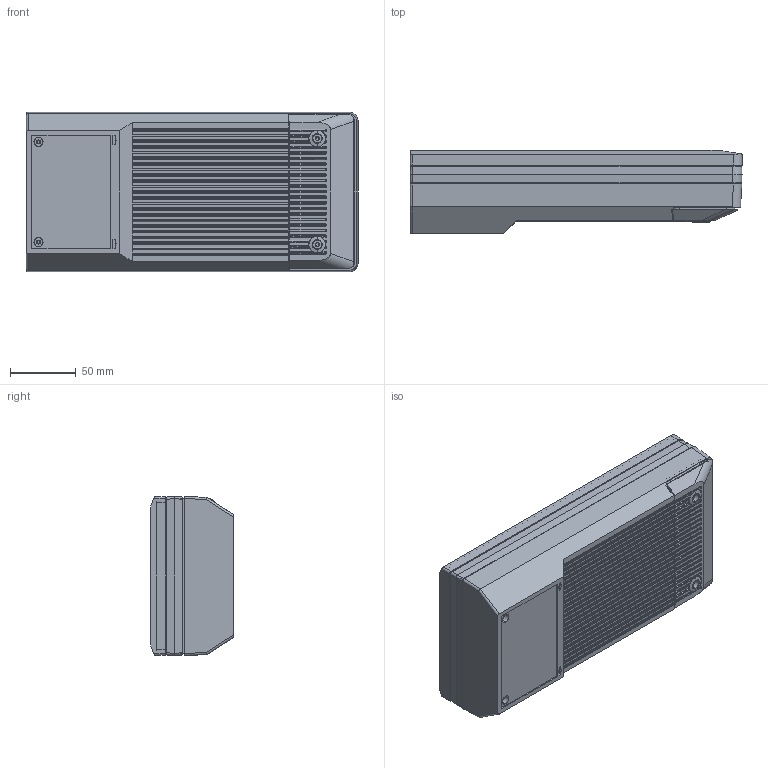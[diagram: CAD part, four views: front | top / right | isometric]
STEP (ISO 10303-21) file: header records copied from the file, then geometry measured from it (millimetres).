
FILE_DESCRIPTION (( 'STEP AP214' ), '1' );
FILE_NAME ('MBL Assembly high.STEP', '2025-01-19T16:08:28', ( '' ), ( '' ), 'SwSTEP 2.0', 'SolidWorks 2016', '' );
FILE_SCHEMA (( 'AUTOMOTIVE_DESIGN' ));
Length unit declared in the file: inch
Products named in the file (9): MBL-DOOR; MBl-top; MBL-bot; MBL Assembly high; MBL-expander
Assembly tree (4 placements, depth 2):
  MBL-DOOR
  MBl-top
  MBL Assembly high
    MBL-bot
    MBl-top
    MBL-DOOR
    MBL-expander
  MBL-bot
  MBL-expander
Bounding box: 252.15 x 62.94 x 121.08 mm (x, y, z)
Volume: 347340.3 mm3; surface area: 285033.6 mm2
Topology: 4 solids, 4 shells, 2621 faces, 6991 edges, 4538 vertices
Faces by surface type: plane 1472, bspline 531, cylinder 494, cone 60, torus 58, sphere 6
Entity records: 105446 total; most frequent: CARTESIAN_POINT 42716, ORIENTED_EDGE 13970, DIRECTION 10914, EDGE_CURVE 6985, VECTOR 4670, LINE 4670, VERTEX_POINT 4538, AXIS2_PLACEMENT_3D 3122
